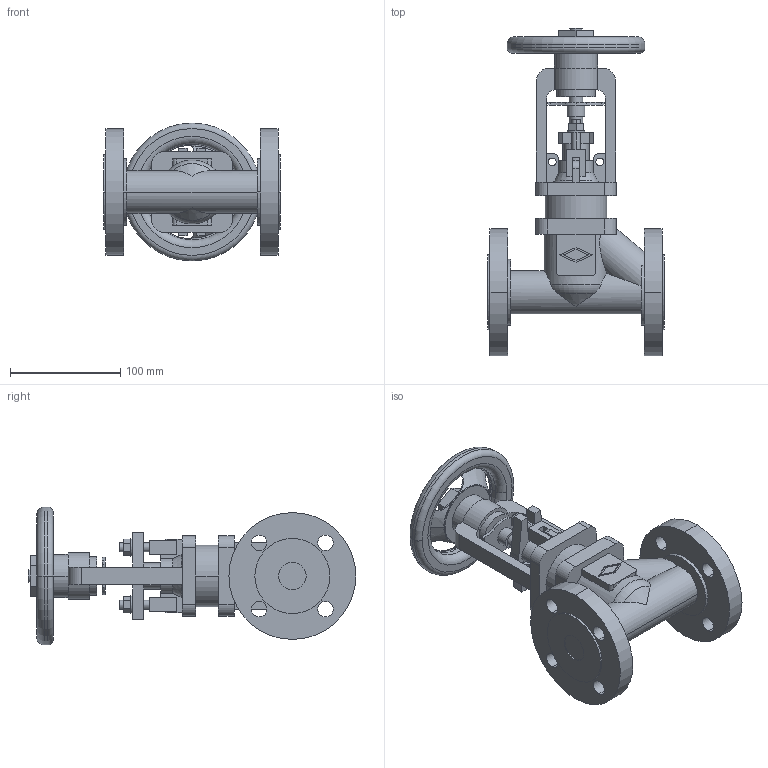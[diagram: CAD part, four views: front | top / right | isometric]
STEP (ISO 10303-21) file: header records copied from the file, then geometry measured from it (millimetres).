
FILE_DESCRIPTION(('OneSpaceDesigner STEP Export'),'2;1');
FILE_NAME('c000004280.stp','2010-05-05T10:04:12',(''),(''),'OneSpace Designer STEP processor for AP214 (Solid Model)','OneSpace Modeling 15.50B 03-Nov-2007 (C) CoCreate Software GmbH','');
FILE_SCHEMA(('AUTOMOTIVE_DESIGN { 1 0 10303 214 1 1 1 1 }'));
Length unit declared in the file: millimetre
Products named in the file (1): 1
Bounding box: 160 x 297 x 125 mm (x, y, z)
Volume: 1083628.1 mm3; surface area: 168714.7 mm2
Topology: 1 solids, 1 shells, 294 faces, 793 edges, 524 vertices
Faces by surface type: plane 145, cylinder 121, torus 16, cone 12
Entity records: 11709 total; most frequent: CARTESIAN_POINT 2258, ORIENTED_EDGE 1586, DIRECTION 1338, EDGE_CURVE 793, VERTEX_POINT 524, AXIS2_PLACEMENT_3D 453, VECTOR 432, LINE 432
